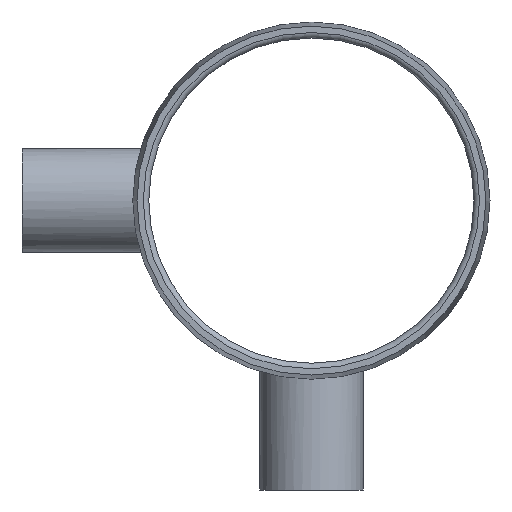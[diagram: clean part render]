
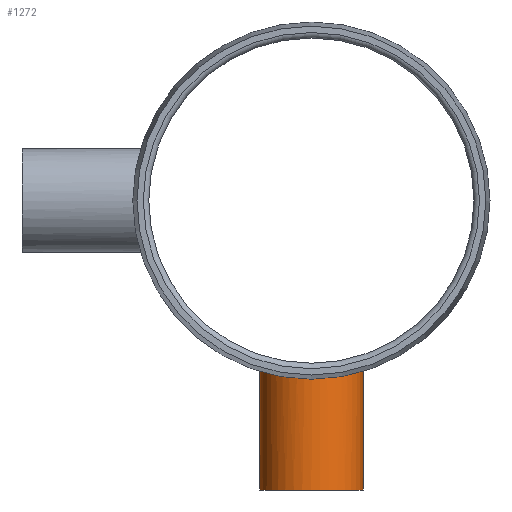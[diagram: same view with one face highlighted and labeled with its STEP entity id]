
A CAD part, left-side view. The second image highlights one B-rep face of the part: STEP entity #1272.
In plain terms, the highlighted cylindrical face has radius 16.701 mm (diameter 33.401 mm), a full revolution.
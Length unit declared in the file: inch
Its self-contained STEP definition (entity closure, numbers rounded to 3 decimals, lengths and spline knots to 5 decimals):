
#106=FACE_OUTER_BOUND('',#167,.T.);
#167=EDGE_LOOP('',(#810,#811,#812,#813,#814));
#239=B_SPLINE_CURVE_WITH_KNOTS('',3,(#2139,#2140,#2141,#2142,#2143,#2144,
#2145,#2146,#2147,#2148,#2149,#2150,#2151,#2152,#2153,#2154,#2155,#2156),
 .UNSPECIFIED.,.F.,.F.,(4,2,2,2,2,2,2,2,4),(0.,0.31659,0.63318,
0.94976,1.26635,1.58286,1.89936,2.21586,
2.53237),.UNSPECIFIED.);
#240=B_SPLINE_CURVE_WITH_KNOTS('',3,(#2157,#2158,#2159,#2160,#2161,#2162,
#2163,#2164,#2165,#2166,#2167,#2168,#2169,#2170,#2171,#2172,#2173,#2174,
#2175,#2176,#2177,#2178,#2179,#2180,#2181,#2182,#2183,#2184,#2185,#2186,
#2187,#2188,#2189,#2190,#2191,#2192,#2193,#2194,#2195,#2196,#2197,#2198,
#2199,#2200,#2201,#2202,#2203,#2204,#2205,#2206),.UNSPECIFIED.,.F.,.F.,
(4,2,2,2,2,2,2,2,2,2,2,2,2,2,2,2,2,2,2,2,2,2,2,2,4),(2.53237,2.84887,
3.16537,3.48188,3.79838,4.11497,4.43156,
4.74814,5.06473,5.38132,5.69791,6.0145,
6.33108,6.64759,6.96409,7.28059,7.5971,
7.9136,8.2301,8.54661,8.86311,9.1797,
9.49629,9.81288,10.12946),.UNSPECIFIED.);
#247=LINE('',#2208,#271);
#271=VECTOR('',#1604,0.6575);
#296=CIRCLE('',#1356,0.6575);
#462=VERTEX_POINT('',#2137);
#463=VERTEX_POINT('',#2138);
#464=VERTEX_POINT('',#2207);
#610=EDGE_CURVE('',#462,#463,#239,.T.);
#611=EDGE_CURVE('',#463,#462,#240,.T.);
#612=EDGE_CURVE('',#463,#464,#247,.T.);
#613=EDGE_CURVE('',#464,#464,#296,.T.);
#810=ORIENTED_EDGE('',*,*,#610,.F.);
#811=ORIENTED_EDGE('',*,*,#611,.F.);
#812=ORIENTED_EDGE('',*,*,#612,.T.);
#813=ORIENTED_EDGE('',*,*,#613,.F.);
#814=ORIENTED_EDGE('',*,*,#612,.F.);
#1193=CYLINDRICAL_SURFACE('',#1355,0.6575);
#1272=ADVANCED_FACE('',(#106),#1193,.T.);
#1355=AXIS2_PLACEMENT_3D('',#2136,#1602,#1603);
#1356=AXIS2_PLACEMENT_3D('',#2209,#1605,#1606);
#1602=DIRECTION('center_axis',(0.,0.,1.));
#1603=DIRECTION('ref_axis',(-1.,0.,0.));
#1604=DIRECTION('',(0.,0.,-1.));
#1605=DIRECTION('center_axis',(0.,0.,-1.));
#1606=DIRECTION('ref_axis',(-1.,0.,0.));
#2136=CARTESIAN_POINT('Origin',(1.96,0.,-3.67));
#2137=CARTESIAN_POINT('',(1.96,-0.6575,-2.15179));
#2138=CARTESIAN_POINT('',(2.6175,0.,-2.25));
#2139=CARTESIAN_POINT('Ctrl Pts',(1.96,-0.6575,-2.15179));
#2140=CARTESIAN_POINT('Ctrl Pts',(2.00155,-0.6575,-2.15179));
#2141=CARTESIAN_POINT('Ctrl Pts',(2.04443,-0.6535,-2.15302));
#2142=CARTESIAN_POINT('Ctrl Pts',(2.12957,-0.63674,-2.15804));
#2143=CARTESIAN_POINT('Ctrl Pts',(2.17183,-0.62398,-2.16182));
#2144=CARTESIAN_POINT('Ctrl Pts',(2.25275,-0.59036,-2.17124));
#2145=CARTESIAN_POINT('Ctrl Pts',(2.29147,-0.56947,-2.17688));
#2146=CARTESIAN_POINT('Ctrl Pts',(2.36303,-0.52128,-2.18892));
#2147=CARTESIAN_POINT('Ctrl Pts',(2.39587,-0.49398,-2.19531));
#2148=CARTESIAN_POINT('Ctrl Pts',(2.45397,-0.43587,-2.20758));
#2149=CARTESIAN_POINT('Ctrl Pts',(2.48127,-0.40305,-2.2139));
#2150=CARTESIAN_POINT('Ctrl Pts',(2.52946,-0.33148,-2.22574));
#2151=CARTESIAN_POINT('Ctrl Pts',(2.55036,-0.29275,-2.23125));
#2152=CARTESIAN_POINT('Ctrl Pts',(2.58399,-0.21182,-2.24038));
#2153=CARTESIAN_POINT('Ctrl Pts',(2.59674,-0.16956,-2.24401));
#2154=CARTESIAN_POINT('Ctrl Pts',(2.6135,-0.08441,
-2.24882));
#2155=CARTESIAN_POINT('Ctrl Pts',(2.6175,-0.04154,-2.25));
#2156=CARTESIAN_POINT('Ctrl Pts',(2.6175,0.,-2.25));
#2157=CARTESIAN_POINT('Ctrl Pts',(2.6175,0.,-2.25));
#2158=CARTESIAN_POINT('Ctrl Pts',(2.6175,0.04154,-2.25));
#2159=CARTESIAN_POINT('Ctrl Pts',(2.6135,0.08441,-2.24882));
#2160=CARTESIAN_POINT('Ctrl Pts',(2.59674,0.16956,-2.24401));
#2161=CARTESIAN_POINT('Ctrl Pts',(2.58399,0.21182,-2.24038));
#2162=CARTESIAN_POINT('Ctrl Pts',(2.55036,0.29275,-2.23125));
#2163=CARTESIAN_POINT('Ctrl Pts',(2.52946,0.33148,-2.22574));
#2164=CARTESIAN_POINT('Ctrl Pts',(2.48127,0.40305,-2.2139));
#2165=CARTESIAN_POINT('Ctrl Pts',(2.45397,0.43587,-2.20758));
#2166=CARTESIAN_POINT('Ctrl Pts',(2.39587,0.49398,-2.19531));
#2167=CARTESIAN_POINT('Ctrl Pts',(2.36303,0.52128,-2.18892));
#2168=CARTESIAN_POINT('Ctrl Pts',(2.29147,0.56947,-2.17688));
#2169=CARTESIAN_POINT('Ctrl Pts',(2.25275,0.59036,-2.17124));
#2170=CARTESIAN_POINT('Ctrl Pts',(2.17183,0.62398,-2.16182));
#2171=CARTESIAN_POINT('Ctrl Pts',(2.12957,0.63674,-2.15804));
#2172=CARTESIAN_POINT('Ctrl Pts',(2.04443,0.6535,-2.15302));
#2173=CARTESIAN_POINT('Ctrl Pts',(2.00155,0.6575,-2.15179));
#2174=CARTESIAN_POINT('Ctrl Pts',(1.91845,0.6575,-2.15179));
#2175=CARTESIAN_POINT('Ctrl Pts',(1.87557,0.6535,-2.15302));
#2176=CARTESIAN_POINT('Ctrl Pts',(1.79043,0.63674,-2.15804));
#2177=CARTESIAN_POINT('Ctrl Pts',(1.74817,0.62398,-2.16182));
#2178=CARTESIAN_POINT('Ctrl Pts',(1.66725,0.59036,-2.17124));
#2179=CARTESIAN_POINT('Ctrl Pts',(1.62853,0.56947,-2.17688));
#2180=CARTESIAN_POINT('Ctrl Pts',(1.55697,0.52128,-2.18892));
#2181=CARTESIAN_POINT('Ctrl Pts',(1.52413,0.49398,-2.19531));
#2182=CARTESIAN_POINT('Ctrl Pts',(1.46603,0.43587,-2.20758));
#2183=CARTESIAN_POINT('Ctrl Pts',(1.43873,0.40305,-2.2139));
#2184=CARTESIAN_POINT('Ctrl Pts',(1.39054,0.33148,-2.22574));
#2185=CARTESIAN_POINT('Ctrl Pts',(1.36964,0.29275,-2.23125));
#2186=CARTESIAN_POINT('Ctrl Pts',(1.33601,0.21182,-2.24038));
#2187=CARTESIAN_POINT('Ctrl Pts',(1.32326,0.16956,-2.24401));
#2188=CARTESIAN_POINT('Ctrl Pts',(1.3065,0.08441,-2.24882));
#2189=CARTESIAN_POINT('Ctrl Pts',(1.3025,0.04154,-2.25));
#2190=CARTESIAN_POINT('Ctrl Pts',(1.3025,-0.04154,-2.25));
#2191=CARTESIAN_POINT('Ctrl Pts',(1.3065,-0.08441,
-2.24882));
#2192=CARTESIAN_POINT('Ctrl Pts',(1.32326,-0.16956,-2.24401));
#2193=CARTESIAN_POINT('Ctrl Pts',(1.33601,-0.21182,-2.24038));
#2194=CARTESIAN_POINT('Ctrl Pts',(1.36964,-0.29275,-2.23125));
#2195=CARTESIAN_POINT('Ctrl Pts',(1.39054,-0.33148,-2.22574));
#2196=CARTESIAN_POINT('Ctrl Pts',(1.43873,-0.40305,-2.2139));
#2197=CARTESIAN_POINT('Ctrl Pts',(1.46603,-0.43587,-2.20758));
#2198=CARTESIAN_POINT('Ctrl Pts',(1.52413,-0.49398,-2.19531));
#2199=CARTESIAN_POINT('Ctrl Pts',(1.55697,-0.52128,-2.18892));
#2200=CARTESIAN_POINT('Ctrl Pts',(1.62853,-0.56947,-2.17688));
#2201=CARTESIAN_POINT('Ctrl Pts',(1.66725,-0.59036,-2.17124));
#2202=CARTESIAN_POINT('Ctrl Pts',(1.74817,-0.62398,-2.16182));
#2203=CARTESIAN_POINT('Ctrl Pts',(1.79043,-0.63674,-2.15804));
#2204=CARTESIAN_POINT('Ctrl Pts',(1.87557,-0.6535,-2.15302));
#2205=CARTESIAN_POINT('Ctrl Pts',(1.91845,-0.6575,-2.15179));
#2206=CARTESIAN_POINT('Ctrl Pts',(1.96,-0.6575,-2.15179));
#2207=CARTESIAN_POINT('',(2.6175,0.,-3.67));
#2208=CARTESIAN_POINT('',(2.6175,0.,-3.67));
#2209=CARTESIAN_POINT('Origin',(1.96,0.,-3.67));
